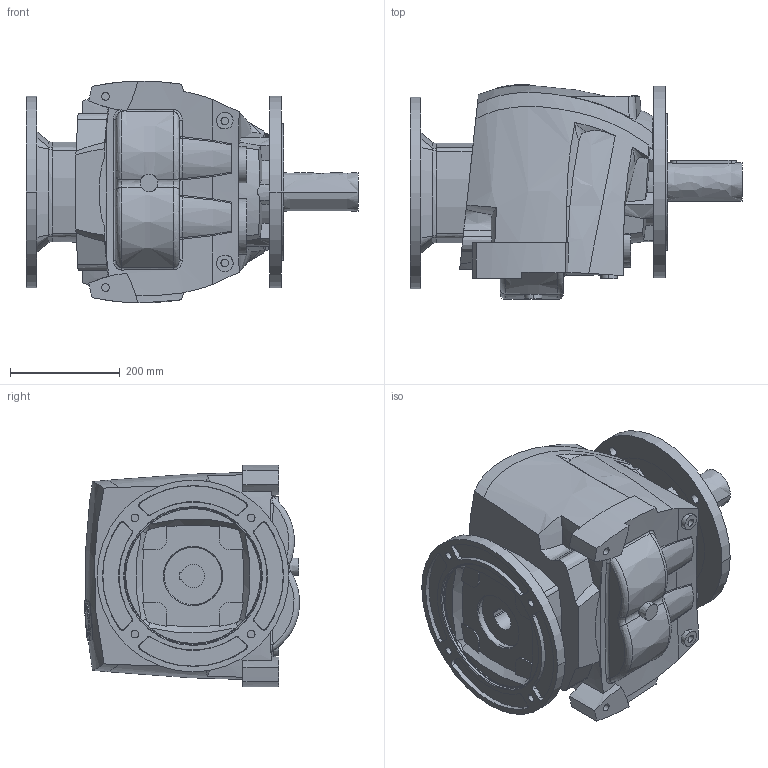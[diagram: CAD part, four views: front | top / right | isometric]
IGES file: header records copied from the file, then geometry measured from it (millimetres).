
Start section:  PTC IGES file: r60_350_pam160_d2.igs
Global section: file name: r60_350_pam160_d2.igs; native system: Pro/ENGINEER by Parametric Technology Corporation; preprocessor: 2008230; author: Luca; organization: Unknown; date: 20131223.180321; units: millimetre
Bounding box: 605.5 x 392.1 x 404.24 mm (x, y, z)
Volume: 41452521.9 mm3; surface area: 1145245.4 mm2
Topology: 1 solids, 8 shells, 541 faces, 1428 edges, 945 vertices
Faces by surface type: bspline 301, revolution 231, extrusion 9
